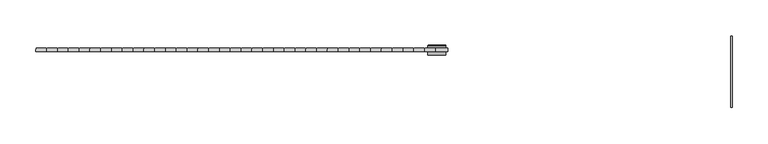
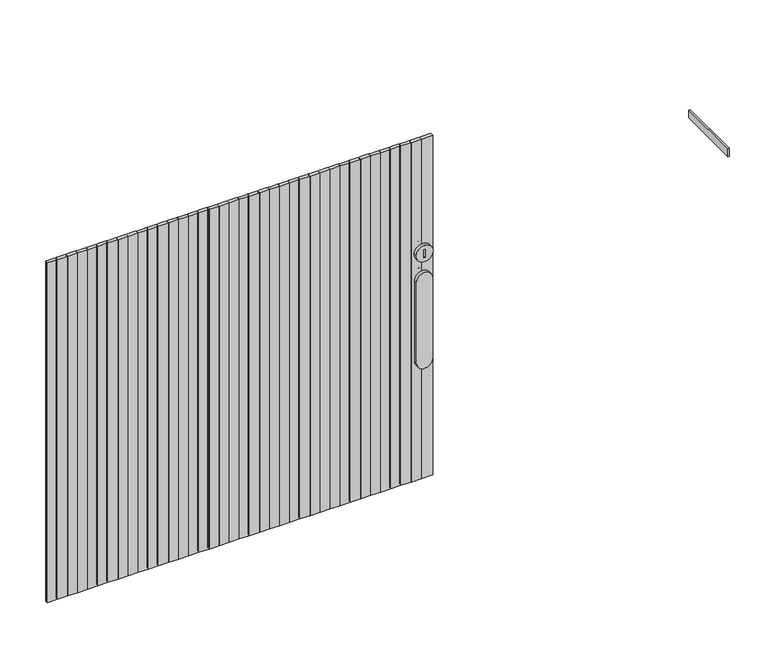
"""IFC4 building model written with IfcOpenShell, lengths in millimetres: furniture geometry, LH mobile caddy w.unpholstered seat+ sliding : LH mobile caddy w.unpholstered seat+ sliding."""

from ifc_helpers import new_model, si_unit, point, frame, frame_2d, origin, place, context, project, spatial, polyline, circle_curve, ellipse_curve, trimmed, segment, composite_curve, outline, extrude, source, transform, mapped, element, save
from ifc_brep_helpers import plane_surface, cylinder_surface, revolved_surface, advanced_brep


def furniture_b2eec27c(model_context):
    return source(origin(), model_context, "Body", "SolidModel", [
        advanced_brep(
        [(73.4473365, 237.0, 419.8528017), (96.5526635, 237.0, 419.8528017), (86.0273848, 237.0, 425.9208037), (84.0273848, 237.0, 425.9208037), (84.0273848, 237.0, 413.9208037), (86.0273848, 237.0, 413.9208037), (72.4473365, 223.0, 419.8528017), (97.5526635, 223.0, 419.8528017), (86.0273848, 223.0, 425.9208037), (86.0273848, 223.0, 413.9208037), (84.0273848, 223.0, 413.9208037), (84.0273848, 223.0, 425.9208037), (72.4473365, 236.0, 419.8528017), (97.5526635, 236.0, 419.8528017)],
        [
            (0, 1, circle_curve(frame((85.0, 237.0, 419.8528017), z_axis=(0.0, 1.0, 0.0), x_axis=(-1.0, 0.0, 0.0)), 11.5526635)),
            (1, 0, circle_curve(frame((85.0, 237.0, 419.8528017), z_axis=(0.0, 1.0, 0.0), x_axis=(1.0, 0.0, 0.0)), 11.5526635)),
            (2, 3),
            (3, 4),
            (4, 5),
            (5, 2),
            (6, 7, circle_curve(frame((85.0, 223.0, 419.8528017), z_axis=(0.0, -1.0, 0.0), x_axis=(1.0, 0.0, 0.0)), 12.5526635)),
            (7, 6, circle_curve(frame((85.0, 223.0, 419.8528017), z_axis=(0.0, -1.0, 0.0), x_axis=(1.0, 0.0, 0.0)), 12.5526635)),
            (8, 9),
            (9, 10),
            (10, 11),
            (11, 8),
            (6, 12),
            (12, 13, circle_curve(frame((85.0, 236.0, 419.8528017), z_axis=(0.0, -1.0, 0.0), x_axis=(1.0, 0.0, 0.0)), 12.5526635)),
            (13, 7),
            (13, 12, circle_curve(frame((85.0, 236.0, 419.8528017), z_axis=(0.0, -1.0, 0.0), x_axis=(1.0, 0.0, 0.0)), 12.5526635)),
            (5, 9),
            (8, 2),
            (4, 10),
            (3, 11),
            (1, 13, circle_curve(frame((96.5526635, 236.0, 419.8528017), z_axis=(0.0, 0.0, -1.0), x_axis=(1.0, 0.0, 0.0)), 1.0)),
            (12, 0, circle_curve(frame((73.4473365, 236.0, 419.8528017), z_axis=(0.0, 0.0, -1.0), x_axis=(-1.0, 0.0, 0.0)), 1.0)),
        ],
        [
            plane_surface(frame((97.5526635, 237.0, 419.8528017), z_axis=(0.0, 1.0, 0.0), x_axis=(0.0, 0.0, 1.0))),
            plane_surface(frame((97.5526635, 223.0, 419.8528017), z_axis=(0.0, -1.0, 0.0), x_axis=(0.0, 0.0, -1.0))),
            cylinder_surface(frame((85.0, 223.0, 419.8528017), z_axis=(0.0, 1.0, 0.0), x_axis=(1.0, 0.0, 0.0)), 12.5526635),
            plane_surface(frame((86.0273848, 237.0, 425.9208037), z_axis=(-1.0, 0.0, 0.0), x_axis=(0.0, -1.0, 0.0))),
            plane_surface(frame((86.0273848, 237.0, 413.9208037), z_axis=(0.0, 0.0, 1.0), x_axis=(0.0, -1.0, 0.0))),
            plane_surface(frame((84.0273848, 237.0, 413.9208037), z_axis=(1.0, 0.0, 0.0), x_axis=(0.0, -1.0, 0.0))),
            plane_surface(frame((84.0273848, 237.0, 425.9208037), z_axis=(0.0, 0.0, -1.0), x_axis=(0.0, -1.0, 0.0))),
            revolved_surface(trimmed(ellipse_curve(frame((96.5526635, 236.0, 419.8528017), z_axis=(0.0, 0.0, -1.0), x_axis=(1.0, 0.0, 0.0)), 1.0, 1.0), [point((96.5526635, 237.0, 419.8528017))], [point((97.5526635, 236.0, 419.8528017))], True, "CARTESIAN"), (85.0, 237.0, 419.8528017), (0.0, -1.0, 0.0)),
            revolved_surface(trimmed(ellipse_curve(frame((73.4473365, 236.0, 419.8528017), z_axis=(0.0, 0.0, 1.0), x_axis=(-1.0, 0.0, 0.0)), 1.0, 1.0), [point((73.4473365, 237.0, 419.8528017))], [point((72.4473365, 236.0, 419.8528017))], True, "CARTESIAN"), (85.0, 237.0, 419.8528017), (0.0, -1.0, 0.0)),
        ],
        [
            (0, [[1, 2], [3, 4, 5, 6]]),
            (1, [[7, 8], [9, 10, 11, 12]]),
            (2, [[13, 14, 15, -7]]),
            (2, [[-15, 16, -13, -8]]),
            (3, [[17, -9, 18, -6]]),
            (4, [[19, -10, -17, -5]]),
            (5, [[20, -11, -19, -4]]),
            (6, [[-18, -12, -20, -3]]),
            (7, [[-2, 21, -14, 22]]),
            (8, [[-16, -21, -1, -22]]),
        ],
    ),
        advanced_brep(
        [(96.0273848, 237.0, 251.804438), (74.0273848, 237.0, 251.804438), (74.0273848, 237.0, 377.9549918), (96.0273848, 237.0, 377.9549918), (76.0273848, 237.0, 251.9484186), (94.0273848, 237.0, 251.9484186), (94.0273848, 237.0, 377.9437952), (76.0273848, 237.0, 377.9437952), (73.0273848, 236.0, 251.804438), (97.0273848, 236.0, 251.804438), (97.0273848, 234.0, 251.804438), (73.0273848, 234.0, 251.804438), (97.0273848, 236.0, 377.9549918), (97.0273848, 234.0, 377.9549918), (97.0273848, 223.0, 377.9549918), (97.0273848, 223.0, 251.804438), (73.0273848, 236.0, 377.9549918), (73.0273848, 234.0, 377.9549918), (73.0273848, 223.0, 251.804438), (73.0273848, 223.0, 377.9549918), (77.0273848, 236.0, 377.9437952), (93.0273848, 236.0, 377.9437952), (93.0273848, 234.0, 377.9437952), (77.0273848, 234.0, 377.9437952), (93.0273848, 236.0, 251.9484186), (93.0273848, 234.0, 251.9484186), (77.0273848, 236.0, 251.9484186), (77.0273848, 234.0, 251.9484186)],
        [
            (0, 1, circle_curve(frame((85.0273848, 237.0, 251.804438), z_axis=(0.0, 1.0, 0.0), x_axis=(1.0, 0.0, 0.0)), 11.0)),
            (1, 2),
            (2, 3, circle_curve(frame((85.0273848, 237.0, 377.9549918), z_axis=(0.0, 1.0, 0.0), x_axis=(-1.0, 0.0, 0.0)), 11.0)),
            (3, 0),
            (4, 5, circle_curve(frame((85.0273848, 237.0, 251.9484186), z_axis=(0.0, -1.0, 0.0), x_axis=(-1.0, 0.0, 0.0)), 9.0)),
            (5, 6),
            (6, 7, circle_curve(frame((85.0273848, 237.0, 377.9437952), z_axis=(0.0, -1.0, 0.0), x_axis=(1.0, 0.0, 0.0)), 9.0)),
            (7, 4),
            (8, 9, circle_curve(frame((85.0273848, 236.0, 251.804438), z_axis=(0.0, -1.0, 0.0), x_axis=(1.0, 0.0, 0.0)), 12.0)),
            (9, 10),
            (10, 11, circle_curve(frame((85.0273848, 234.0, 251.804438), z_axis=(0.0, 1.0, 0.0), x_axis=(1.0, 0.0, 0.0)), 12.0)),
            (11, 8),
            (9, 12),
            (12, 13),
            (13, 14),
            (14, 15),
            (15, 10),
            (12, 16, circle_curve(frame((85.0273848, 236.0, 377.9549918), z_axis=(0.0, -1.0, 0.0), x_axis=(1.0, 0.0, 0.0)), 12.0)),
            (16, 17),
            (17, 13, circle_curve(frame((85.0273848, 234.0, 377.9549918), z_axis=(0.0, 1.0, 0.0), x_axis=(1.0, 0.0, 0.0)), 12.0)),
            (11, 18),
            (18, 19),
            (19, 17),
            (16, 8),
            (20, 21, circle_curve(frame((85.0273848, 236.0, 377.9437952), z_axis=(0.0, 1.0, 0.0), x_axis=(1.0, 0.0, 0.0)), 8.0)),
            (21, 22),
            (22, 23, circle_curve(frame((85.0273848, 234.0, 377.9437952), z_axis=(0.0, -1.0, 0.0), x_axis=(1.0, 0.0, 0.0)), 8.0)),
            (23, 20),
            (21, 24),
            (24, 25),
            (25, 22),
            (24, 26, circle_curve(frame((85.0273848, 236.0, 251.9484186), z_axis=(0.0, 1.0, 0.0), x_axis=(1.0, 0.0, 0.0)), 8.0)),
            (26, 27),
            (27, 25, circle_curve(frame((85.0273848, 234.0, 251.9484186), z_axis=(0.0, -1.0, 0.0), x_axis=(1.0, 0.0, 0.0)), 8.0)),
            (23, 27),
            (26, 20),
            (7, 20, circle_curve(frame((76.0273848, 236.0, 377.9437952), z_axis=(0.0, 0.0, -1.0), x_axis=(-1.0, 0.0, 0.0)), 1.0)),
            (26, 4, circle_curve(frame((76.0273848, 236.0, 251.9484186), z_axis=(0.0, 0.0, 1.0), x_axis=(-1.0, 0.0, 0.0)), 1.0)),
            (24, 5, circle_curve(frame((94.0273848, 236.0, 251.9484186), z_axis=(0.0, 0.0, -1.0), x_axis=(1.0, 0.0, 0.0)), 1.0)),
            (21, 6, circle_curve(frame((94.0273848, 236.0, 377.9437952), z_axis=(0.0, 0.0, -1.0), x_axis=(1.0, 0.0, 0.0)), 1.0)),
            (3, 12, circle_curve(frame((96.0273848, 236.0, 377.9549918), z_axis=(0.0, 0.0, -1.0), x_axis=(1.0, 0.0, 0.0)), 1.0)),
            (9, 0, circle_curve(frame((96.0273848, 236.0, 251.804438), z_axis=(0.0, 0.0, 1.0), x_axis=(1.0, 0.0, 0.0)), 1.0)),
            (8, 1, circle_curve(frame((74.0273848, 236.0, 251.804438), z_axis=(0.0, 0.0, -1.0), x_axis=(-1.0, 0.0, 0.0)), 1.0)),
            (16, 2, circle_curve(frame((74.0273848, 236.0, 377.9549918), z_axis=(0.0, 0.0, -1.0), x_axis=(-1.0, 0.0, 0.0)), 1.0)),
            (18, 15, circle_curve(frame((85.0273848, 223.0, 251.804438), z_axis=(0.0, -1.0, 0.0), x_axis=(1.0, 0.0, 0.0)), 12.0)),
            (14, 19, circle_curve(frame((85.0273848, 223.0, 377.9549918), z_axis=(0.0, -1.0, 0.0), x_axis=(1.0, 0.0, 0.0)), 12.0)),
        ],
        [
            plane_surface(frame((97.0273848, 237.0, 251.804438), z_axis=(0.0, 1.0, 0.0), x_axis=(0.0, 0.0, 1.0))),
            cylinder_surface(frame((85.0273848, 234.0, 251.804438), z_axis=(0.0, 1.0, 0.0), x_axis=(1.0, 0.0, 0.0)), 12.0),
            plane_surface(frame((97.0273848, 237.0, 251.804438), z_axis=(1.0, 0.0, 0.0), x_axis=(0.0, -1.0, 0.0))),
            cylinder_surface(frame((85.0273848, 234.0, 377.9549918), z_axis=(0.0, 1.0, 0.0), x_axis=(1.0, 0.0, 0.0)), 12.0),
            plane_surface(frame((73.0273848, 237.0, 377.9549918), z_axis=(-1.0, 0.0, 0.0), x_axis=(0.0, -1.0, 0.0))),
            revolved_surface(polyline([(93.0273848, 234.0, 377.9437952), (93.0273848, 236.0, 377.9437952)]), (85.0273848, 237.0, 377.9437952), (0.0, -1.0, 0.0)),
            plane_surface(frame((93.0273848, 237.0, 377.9437952), z_axis=(-1.0, 0.0, 0.0), x_axis=(0.0, -1.0, 0.0))),
            revolved_surface(polyline([(93.0273848, 234.0, 251.9484186), (93.0273848, 236.0, 251.9484186)]), (85.0273848, 237.0, 251.9484186), (0.0, -1.0, 0.0)),
            plane_surface(frame((77.0273848, 237.0, 251.9484186), z_axis=(1.0, 0.0, 0.0), x_axis=(0.0, -1.0, 0.0))),
            cylinder_surface(frame((76.0273848, 236.0, 377.9437952), z_axis=(0.0, 0.0, -1.0), x_axis=(-1.0, 0.0, 0.0)), 1.0),
            revolved_surface(trimmed(ellipse_curve(frame((76.0273848, 236.0, 251.9484186), z_axis=(0.0, 0.0, -1.0), x_axis=(-1.0, 0.0, 0.0)), 1.0, 1.0), [point((76.0273848, 237.0, 251.9484186))], [point((77.0273848, 236.0, 251.9484186))], True, "CARTESIAN"), (85.0273848, 237.0, 251.9484186), (0.0, 1.0, 0.0)),
            cylinder_surface(frame((94.0273848, 236.0, 251.9484186), z_axis=(0.0, 0.0, 1.0), x_axis=(1.0, 0.0, 0.0)), 1.0),
            revolved_surface(trimmed(ellipse_curve(frame((94.0273848, 236.0, 377.9437952), z_axis=(0.0, 0.0, 1.0), x_axis=(1.0, 0.0, 0.0)), 1.0, 1.0), [point((94.0273848, 237.0, 377.9437952))], [point((93.0273848, 236.0, 377.9437952))], True, "CARTESIAN"), (85.0273848, 237.0, 377.9437952), (0.0, 1.0, 0.0)),
            cylinder_surface(frame((96.0273848, 236.0, 377.9549918), z_axis=(0.0, 0.0, -1.0), x_axis=(1.0, 0.0, 0.0)), 1.0),
            revolved_surface(trimmed(ellipse_curve(frame((96.0273848, 236.0, 251.804438), z_axis=(0.0, 0.0, -1.0), x_axis=(1.0, 0.0, 0.0)), 1.0, 1.0), [point((96.0273848, 237.0, 251.804438))], [point((97.0273848, 236.0, 251.804438))], True, "CARTESIAN"), (85.0273848, 237.0, 251.804438), (0.0, -1.0, 0.0)),
            cylinder_surface(frame((74.0273848, 236.0, 251.804438), z_axis=(0.0, 0.0, 1.0), x_axis=(-1.0, 0.0, 0.0)), 1.0),
            revolved_surface(trimmed(ellipse_curve(frame((74.0273848, 236.0, 377.9549918), z_axis=(0.0, 0.0, 1.0), x_axis=(-1.0, 0.0, 0.0)), 1.0, 1.0), [point((74.0273848, 237.0, 377.9549918))], [point((73.0273848, 236.0, 377.9549918))], True, "CARTESIAN"), (85.0273848, 237.0, 377.9549918), (0.0, -1.0, 0.0)),
            plane_surface(frame((97.0273848, 234.0, 251.804438), z_axis=(0.0, 1.0, 0.0), x_axis=(0.0, 0.0, 1.0))),
            plane_surface(frame((97.0273848, 223.0, 251.804438), z_axis=(0.0, -1.0, 0.0), x_axis=(0.0, 0.0, -1.0))),
            cylinder_surface(frame((85.0273848, 223.0, 251.804438), z_axis=(0.0, 1.0, 0.0), x_axis=(1.0, 0.0, 0.0)), 12.0),
            cylinder_surface(frame((85.0273848, 223.0, 377.9549918), z_axis=(0.0, 1.0, 0.0), x_axis=(1.0, 0.0, 0.0)), 12.0),
        ],
        [
            (0, [[1, 2, 3, 4], [5, 6, 7, 8]]),
            (1, [[9, 10, 11, 12]]),
            (2, [[13, 14, 15, 16, 17, -10]]),
            (3, [[18, 19, 20, -14]]),
            (4, [[21, 22, 23, -19, 24, -12]]),
            (5, [[25, 26, 27, 28]]),
            (6, [[29, 30, 31, -26]]),
            (7, [[32, 33, 34, -30]]),
            (8, [[35, -33, 36, -28]]),
            (9, [[-8, 37, -36, 38]]),
            (10, [[-32, 39, -5, -38]]),
            (11, [[-29, 40, -6, -39]]),
            (12, [[-7, -40, -25, -37]]),
            (13, [[-4, 41, -13, 42]]),
            (14, [[-9, 43, -1, -42]]),
            (15, [[-24, 44, -2, -43]]),
            (16, [[-3, -44, -18, -41]]),
            (17, [[-31, -34, -35, -27]]),
            (18, [[45, -16, 46, -22]]),
            (19, [[-21, -11, -17, -45]]),
            (20, [[-15, -20, -23, -46]]),
        ],
    ),
        extrude(outline(composite_curve([segment(polyline([(82.9948684, 228.2249016), (67.9948684, 228.2249016), (67.9948684, 231.2249016)]), True, "CONTINUOUS"), segment(trimmed(circle_curve(frame_2d((69.9948684, 231.2249016)), 2.0), [point((67.9948684, 231.2249016))], [point((69.9948684, 233.2249016))], False, "CARTESIAN"), True, "CONTINUOUS"), segment(polyline([(69.9948684, 233.2249016), (80.9948684, 233.2249016)]), True, "CONTINUOUS"), segment(trimmed(circle_curve(frame_2d((80.9948684, 231.2249016)), 2.0), [point((80.9948684, 233.2249016))], [point((82.9948684, 231.2249016))], False, "CARTESIAN"), True, "CONTINUOUS"), segment(polyline([(82.9948684, 231.2249016), (82.9948684, 228.2249016)]), True, "CONTINUOUS")], self_intersect=False)), frame((0.0, 0.0, 63.9114638), z_axis=(0.0, 0.0, 1.0), x_axis=(1.0, 0.0, 0.0)), (0.0, 0.0, 1.0), 533.0),
        extrude(outline(composite_curve([segment(polyline([(67.9948684, 228.2249016), (52.9948684, 228.2249016), (52.9948684, 231.2249016)]), True, "CONTINUOUS"), segment(trimmed(circle_curve(frame_2d((54.9948684, 231.2249016)), 2.0), [point((52.9948684, 231.2249016))], [point((54.9948684, 233.2249016))], False, "CARTESIAN"), True, "CONTINUOUS"), segment(polyline([(54.9948684, 233.2249016), (65.9948684, 233.2249016)]), True, "CONTINUOUS"), segment(trimmed(circle_curve(frame_2d((65.9948684, 231.2249016)), 2.0), [point((65.9948684, 233.2249016))], [point((67.9948684, 231.2249016))], False, "CARTESIAN"), True, "CONTINUOUS"), segment(polyline([(67.9948684, 231.2249016), (67.9948684, 228.2249016)]), True, "CONTINUOUS")], self_intersect=False)), frame((0.0, 0.0, 63.9114638), z_axis=(0.0, 0.0, 1.0), x_axis=(1.0, 0.0, 0.0)), (0.0, 0.0, 1.0), 533.0),
        extrude(outline(composite_curve([segment(polyline([(52.9948684, 228.2249016), (37.9948684, 228.2249016), (37.9948684, 231.2249016)]), True, "CONTINUOUS"), segment(trimmed(circle_curve(frame_2d((39.9948684, 231.2249016)), 2.0), [point((37.9948684, 231.2249016))], [point((39.9948684, 233.2249016))], False, "CARTESIAN"), True, "CONTINUOUS"), segment(polyline([(39.9948684, 233.2249016), (50.9948684, 233.2249016)]), True, "CONTINUOUS"), segment(trimmed(circle_curve(frame_2d((50.9948684, 231.2249016)), 2.0), [point((50.9948684, 233.2249016))], [point((52.9948684, 231.2249016))], False, "CARTESIAN"), True, "CONTINUOUS"), segment(polyline([(52.9948684, 231.2249016), (52.9948684, 228.2249016)]), True, "CONTINUOUS")], self_intersect=False)), frame((0.0, 0.0, 63.9114638), z_axis=(0.0, 0.0, 1.0), x_axis=(1.0, 0.0, 0.0)), (0.0, 0.0, 1.0), 533.0),
        extrude(outline(composite_curve([segment(polyline([(37.9948684, 228.2249016), (22.9948684, 228.2249016), (22.9948684, 231.2249016)]), True, "CONTINUOUS"), segment(trimmed(circle_curve(frame_2d((24.9948684, 231.2249016)), 2.0), [point((22.9948684, 231.2249016))], [point((24.9948684, 233.2249016))], False, "CARTESIAN"), True, "CONTINUOUS"), segment(polyline([(24.9948684, 233.2249016), (35.9948684, 233.2249016)]), True, "CONTINUOUS"), segment(trimmed(circle_curve(frame_2d((35.9948684, 231.2249016)), 2.0), [point((35.9948684, 233.2249016))], [point((37.9948684, 231.2249016))], False, "CARTESIAN"), True, "CONTINUOUS"), segment(polyline([(37.9948684, 231.2249016), (37.9948684, 228.2249016)]), True, "CONTINUOUS")], self_intersect=False)), frame((0.0, 0.0, 63.9114638), z_axis=(0.0, 0.0, 1.0), x_axis=(1.0, 0.0, 0.0)), (0.0, 0.0, 1.0), 533.0),
        extrude(outline(composite_curve([segment(polyline([(22.9948684, 228.2249016), (7.9948684, 228.2249016), (7.9948684, 231.2249016)]), True, "CONTINUOUS"), segment(trimmed(circle_curve(frame_2d((9.9948684, 231.2249016)), 2.0), [point((7.9948684, 231.2249016))], [point((9.9948684, 233.2249016))], False, "CARTESIAN"), True, "CONTINUOUS"), segment(polyline([(9.9948684, 233.2249016), (20.9948684, 233.2249016)]), True, "CONTINUOUS"), segment(trimmed(circle_curve(frame_2d((20.9948684, 231.2249016)), 2.0), [point((20.9948684, 233.2249016))], [point((22.9948684, 231.2249016))], False, "CARTESIAN"), True, "CONTINUOUS"), segment(polyline([(22.9948684, 231.2249016), (22.9948684, 228.2249016)]), True, "CONTINUOUS")], self_intersect=False)), frame((0.0, 0.0, 63.9114638), z_axis=(0.0, 0.0, 1.0), x_axis=(1.0, 0.0, 0.0)), (0.0, 0.0, 1.0), 533.0),
        extrude(outline(composite_curve([segment(polyline([(7.9948684, 228.2249016), (-7.0051316, 228.2249016), (-7.0051316, 231.2249016)]), True, "CONTINUOUS"), segment(trimmed(circle_curve(frame_2d((-5.0051316, 231.2249016)), 2.0), [point((-7.0051316, 231.2249016))], [point((-5.0051316, 233.2249016))], False, "CARTESIAN"), True, "CONTINUOUS"), segment(polyline([(-5.0051316, 233.2249016), (5.9948684, 233.2249016)]), True, "CONTINUOUS"), segment(trimmed(circle_curve(frame_2d((5.9948684, 231.2249016)), 2.0), [point((5.9948684, 233.2249016))], [point((7.9948684, 231.2249016))], False, "CARTESIAN"), True, "CONTINUOUS"), segment(polyline([(7.9948684, 231.2249016), (7.9948684, 228.2249016)]), True, "CONTINUOUS")], self_intersect=False)), frame((0.0, 0.0, 63.9114638), z_axis=(0.0, 0.0, 1.0), x_axis=(1.0, 0.0, 0.0)), (0.0, 0.0, 1.0), 533.0),
        extrude(outline(composite_curve([segment(polyline([(-7.0051316, 228.2249016), (-22.0051316, 228.2249016), (-22.0051316, 231.2249016)]), True, "CONTINUOUS"), segment(trimmed(circle_curve(frame_2d((-20.0051316, 231.2249016)), 2.0), [point((-22.0051316, 231.2249016))], [point((-20.0051316, 233.2249016))], False, "CARTESIAN"), True, "CONTINUOUS"), segment(polyline([(-20.0051316, 233.2249016), (-9.0051316, 233.2249016)]), True, "CONTINUOUS"), segment(trimmed(circle_curve(frame_2d((-9.0051316, 231.2249016)), 2.0), [point((-9.0051316, 233.2249016))], [point((-7.0051316, 231.2249016))], False, "CARTESIAN"), True, "CONTINUOUS"), segment(polyline([(-7.0051316, 231.2249016), (-7.0051316, 228.2249016)]), True, "CONTINUOUS")], self_intersect=False)), frame((0.0, 0.0, 63.9114638), z_axis=(0.0, 0.0, 1.0), x_axis=(1.0, 0.0, 0.0)), (0.0, 0.0, 1.0), 533.0),
        extrude(outline(composite_curve([segment(polyline([(-22.0051316, 228.2249016), (-37.0051316, 228.2249016), (-37.0051316, 231.2249016)]), True, "CONTINUOUS"), segment(trimmed(circle_curve(frame_2d((-35.0051316, 231.2249016)), 2.0), [point((-37.0051316, 231.2249016))], [point((-35.0051316, 233.2249016))], False, "CARTESIAN"), True, "CONTINUOUS"), segment(polyline([(-35.0051316, 233.2249016), (-24.0051316, 233.2249016)]), True, "CONTINUOUS"), segment(trimmed(circle_curve(frame_2d((-24.0051316, 231.2249016)), 2.0), [point((-24.0051316, 233.2249016))], [point((-22.0051316, 231.2249016))], False, "CARTESIAN"), True, "CONTINUOUS"), segment(polyline([(-22.0051316, 231.2249016), (-22.0051316, 228.2249016)]), True, "CONTINUOUS")], self_intersect=False)), frame((0.0, 0.0, 63.9114638), z_axis=(0.0, 0.0, 1.0), x_axis=(1.0, 0.0, 0.0)), (0.0, 0.0, 1.0), 533.0),
        extrude(outline(composite_curve([segment(polyline([(-37.0051316, 228.2249016), (-52.0051316, 228.2249016), (-52.0051316, 231.2249016)]), True, "CONTINUOUS"), segment(trimmed(circle_curve(frame_2d((-50.0051316, 231.2249016)), 2.0), [point((-52.0051316, 231.2249016))], [point((-50.0051316, 233.2249016))], False, "CARTESIAN"), True, "CONTINUOUS"), segment(polyline([(-50.0051316, 233.2249016), (-39.0051316, 233.2249016)]), True, "CONTINUOUS"), segment(trimmed(circle_curve(frame_2d((-39.0051316, 231.2249016)), 2.0), [point((-39.0051316, 233.2249016))], [point((-37.0051316, 231.2249016))], False, "CARTESIAN"), True, "CONTINUOUS"), segment(polyline([(-37.0051316, 231.2249016), (-37.0051316, 228.2249016)]), True, "CONTINUOUS")], self_intersect=False)), frame((0.0, 0.0, 63.9114638), z_axis=(0.0, 0.0, 1.0), x_axis=(1.0, 0.0, 0.0)), (0.0, 0.0, 1.0), 533.0),
        extrude(outline(composite_curve([segment(polyline([(-52.0051316, 228.2249016), (-67.0051316, 228.2249016), (-67.0051316, 231.2249016)]), True, "CONTINUOUS"), segment(trimmed(circle_curve(frame_2d((-65.0051316, 231.2249016)), 2.0), [point((-67.0051316, 231.2249016))], [point((-65.0051316, 233.2249016))], False, "CARTESIAN"), True, "CONTINUOUS"), segment(polyline([(-65.0051316, 233.2249016), (-54.0051316, 233.2249016)]), True, "CONTINUOUS"), segment(trimmed(circle_curve(frame_2d((-54.0051316, 231.2249016)), 2.0), [point((-54.0051316, 233.2249016))], [point((-52.0051316, 231.2249016))], False, "CARTESIAN"), True, "CONTINUOUS"), segment(polyline([(-52.0051316, 231.2249016), (-52.0051316, 228.2249016)]), True, "CONTINUOUS")], self_intersect=False)), frame((0.0, 0.0, 63.9114638), z_axis=(0.0, 0.0, 1.0), x_axis=(1.0, 0.0, 0.0)), (0.0, 0.0, 1.0), 533.0),
        extrude(outline(composite_curve([segment(polyline([(-67.0051316, 228.2249016), (-82.0051316, 228.2249016), (-82.0051316, 231.2249016)]), True, "CONTINUOUS"), segment(trimmed(circle_curve(frame_2d((-80.0051316, 231.2249016)), 2.0), [point((-82.0051316, 231.2249016))], [point((-80.0051316, 233.2249016))], False, "CARTESIAN"), True, "CONTINUOUS"), segment(polyline([(-80.0051316, 233.2249016), (-69.0051316, 233.2249016)]), True, "CONTINUOUS"), segment(trimmed(circle_curve(frame_2d((-69.0051316, 231.2249016)), 2.0), [point((-69.0051316, 233.2249016))], [point((-67.0051316, 231.2249016))], False, "CARTESIAN"), True, "CONTINUOUS"), segment(polyline([(-67.0051316, 231.2249016), (-67.0051316, 228.2249016)]), True, "CONTINUOUS")], self_intersect=False)), frame((0.0, 0.0, 63.9114638), z_axis=(0.0, 0.0, 1.0), x_axis=(1.0, 0.0, 0.0)), (0.0, 0.0, 1.0), 533.0),
        extrude(outline(composite_curve([segment(polyline([(-82.0051316, 228.2249016), (-97.0051316, 228.2249016), (-97.0051316, 231.2249016)]), True, "CONTINUOUS"), segment(trimmed(circle_curve(frame_2d((-95.0051316, 231.2249016)), 2.0), [point((-97.0051316, 231.2249016))], [point((-95.0051316, 233.2249016))], False, "CARTESIAN"), True, "CONTINUOUS"), segment(polyline([(-95.0051316, 233.2249016), (-84.0051316, 233.2249016)]), True, "CONTINUOUS"), segment(trimmed(circle_curve(frame_2d((-84.0051316, 231.2249016)), 2.0), [point((-84.0051316, 233.2249016))], [point((-82.0051316, 231.2249016))], False, "CARTESIAN"), True, "CONTINUOUS"), segment(polyline([(-82.0051316, 231.2249016), (-82.0051316, 228.2249016)]), True, "CONTINUOUS")], self_intersect=False)), frame((0.0, 0.0, 63.9114638), z_axis=(0.0, 0.0, 1.0), x_axis=(1.0, 0.0, 0.0)), (0.0, 0.0, 1.0), 533.0),
        extrude(outline(composite_curve([segment(polyline([(-97.0051316, 228.2249016), (-112.0051316, 228.2249016), (-112.0051316, 231.2249016)]), True, "CONTINUOUS"), segment(trimmed(circle_curve(frame_2d((-110.0051316, 231.2249016)), 2.0), [point((-112.0051316, 231.2249016))], [point((-110.0051316, 233.2249016))], False, "CARTESIAN"), True, "CONTINUOUS"), segment(polyline([(-110.0051316, 233.2249016), (-99.0051316, 233.2249016)]), True, "CONTINUOUS"), segment(trimmed(circle_curve(frame_2d((-99.0051316, 231.2249016)), 2.0), [point((-99.0051316, 233.2249016))], [point((-97.0051316, 231.2249016))], False, "CARTESIAN"), True, "CONTINUOUS"), segment(polyline([(-97.0051316, 231.2249016), (-97.0051316, 228.2249016)]), True, "CONTINUOUS")], self_intersect=False)), frame((0.0, 0.0, 63.9114638), z_axis=(0.0, 0.0, 1.0), x_axis=(1.0, 0.0, 0.0)), (0.0, 0.0, 1.0), 533.0),
        extrude(outline(composite_curve([segment(polyline([(-112.0051316, 228.2249016), (-127.0051316, 228.2249016), (-127.0051316, 231.2249016)]), True, "CONTINUOUS"), segment(trimmed(circle_curve(frame_2d((-125.0051316, 231.2249016)), 2.0), [point((-127.0051316, 231.2249016))], [point((-125.0051316, 233.2249016))], False, "CARTESIAN"), True, "CONTINUOUS"), segment(polyline([(-125.0051316, 233.2249016), (-114.0051316, 233.2249016)]), True, "CONTINUOUS"), segment(trimmed(circle_curve(frame_2d((-114.0051316, 231.2249016)), 2.0), [point((-114.0051316, 233.2249016))], [point((-112.0051316, 231.2249016))], False, "CARTESIAN"), True, "CONTINUOUS"), segment(polyline([(-112.0051316, 231.2249016), (-112.0051316, 228.2249016)]), True, "CONTINUOUS")], self_intersect=False)), frame((0.0, 0.0, 63.9114638), z_axis=(0.0, 0.0, 1.0), x_axis=(1.0, 0.0, 0.0)), (0.0, 0.0, 1.0), 533.0),
        extrude(outline(composite_curve([segment(polyline([(-127.0051316, 228.2249016), (-142.0051316, 228.2249016), (-142.0051316, 231.2249016)]), True, "CONTINUOUS"), segment(trimmed(circle_curve(frame_2d((-140.0051316, 231.2249016)), 2.0), [point((-142.0051316, 231.2249016))], [point((-140.0051316, 233.2249016))], False, "CARTESIAN"), True, "CONTINUOUS"), segment(polyline([(-140.0051316, 233.2249016), (-129.0051316, 233.2249016)]), True, "CONTINUOUS"), segment(trimmed(circle_curve(frame_2d((-129.0051316, 231.2249016)), 2.0), [point((-129.0051316, 233.2249016))], [point((-127.0051316, 231.2249016))], False, "CARTESIAN"), True, "CONTINUOUS"), segment(polyline([(-127.0051316, 231.2249016), (-127.0051316, 228.2249016)]), True, "CONTINUOUS")], self_intersect=False)), frame((0.0, 0.0, 63.9114638), z_axis=(0.0, 0.0, 1.0), x_axis=(1.0, 0.0, 0.0)), (0.0, 0.0, 1.0), 533.0),
        extrude(outline(composite_curve([segment(polyline([(-142.0051316, 228.2249016), (-157.0051316, 228.2249016), (-157.0051316, 231.2249016)]), True, "CONTINUOUS"), segment(trimmed(circle_curve(frame_2d((-155.0051316, 231.2249016)), 2.0), [point((-157.0051316, 231.2249016))], [point((-155.0051316, 233.2249016))], False, "CARTESIAN"), True, "CONTINUOUS"), segment(polyline([(-155.0051316, 233.2249016), (-144.0051316, 233.2249016)]), True, "CONTINUOUS"), segment(trimmed(circle_curve(frame_2d((-144.0051316, 231.2249016)), 2.0), [point((-144.0051316, 233.2249016))], [point((-142.0051316, 231.2249016))], False, "CARTESIAN"), True, "CONTINUOUS"), segment(polyline([(-142.0051316, 231.2249016), (-142.0051316, 228.2249016)]), True, "CONTINUOUS")], self_intersect=False)), frame((0.0, 0.0, 63.9114638), z_axis=(0.0, 0.0, 1.0), x_axis=(1.0, 0.0, 0.0)), (0.0, 0.0, 1.0), 533.0),
        extrude(outline(composite_curve([segment(polyline([(-157.0051316, 228.2249016), (-172.0051316, 228.2249016), (-172.0051316, 231.2249016)]), True, "CONTINUOUS"), segment(trimmed(circle_curve(frame_2d((-170.0051316, 231.2249016)), 2.0), [point((-172.0051316, 231.2249016))], [point((-170.0051316, 233.2249016))], False, "CARTESIAN"), True, "CONTINUOUS"), segment(polyline([(-170.0051316, 233.2249016), (-159.0051316, 233.2249016)]), True, "CONTINUOUS"), segment(trimmed(circle_curve(frame_2d((-159.0051316, 231.2249016)), 2.0), [point((-159.0051316, 233.2249016))], [point((-157.0051316, 231.2249016))], False, "CARTESIAN"), True, "CONTINUOUS"), segment(polyline([(-157.0051316, 231.2249016), (-157.0051316, 228.2249016)]), True, "CONTINUOUS")], self_intersect=False)), frame((0.0, 0.0, 63.9114638), z_axis=(0.0, 0.0, 1.0), x_axis=(1.0, 0.0, 0.0)), (0.0, 0.0, 1.0), 533.0),
        extrude(outline(composite_curve([segment(polyline([(-172.0051316, 228.2249016), (-187.0051316, 228.2249016), (-187.0051316, 231.2249016)]), True, "CONTINUOUS"), segment(trimmed(circle_curve(frame_2d((-185.0051316, 231.2249016)), 2.0), [point((-187.0051316, 231.2249016))], [point((-185.0051316, 233.2249016))], False, "CARTESIAN"), True, "CONTINUOUS"), segment(polyline([(-185.0051316, 233.2249016), (-174.0051316, 233.2249016)]), True, "CONTINUOUS"), segment(trimmed(circle_curve(frame_2d((-174.0051316, 231.2249016)), 2.0), [point((-174.0051316, 233.2249016))], [point((-172.0051316, 231.2249016))], False, "CARTESIAN"), True, "CONTINUOUS"), segment(polyline([(-172.0051316, 231.2249016), (-172.0051316, 228.2249016)]), True, "CONTINUOUS")], self_intersect=False)), frame((0.0, 0.0, 63.9114638), z_axis=(0.0, 0.0, 1.0), x_axis=(1.0, 0.0, 0.0)), (0.0, 0.0, 1.0), 533.0),
        extrude(outline(composite_curve([segment(polyline([(-187.0051316, 228.2249016), (-202.0051316, 228.2249016), (-202.0051316, 231.2249016)]), True, "CONTINUOUS"), segment(trimmed(circle_curve(frame_2d((-200.0051316, 231.2249016)), 2.0), [point((-202.0051316, 231.2249016))], [point((-200.0051316, 233.2249016))], False, "CARTESIAN"), True, "CONTINUOUS"), segment(polyline([(-200.0051316, 233.2249016), (-189.0051316, 233.2249016)]), True, "CONTINUOUS"), segment(trimmed(circle_curve(frame_2d((-189.0051316, 231.2249016)), 2.0), [point((-189.0051316, 233.2249016))], [point((-187.0051316, 231.2249016))], False, "CARTESIAN"), True, "CONTINUOUS"), segment(polyline([(-187.0051316, 231.2249016), (-187.0051316, 228.2249016)]), True, "CONTINUOUS")], self_intersect=False)), frame((0.0, 0.0, 63.9114638), z_axis=(0.0, 0.0, 1.0), x_axis=(1.0, 0.0, 0.0)), (0.0, 0.0, 1.0), 533.0),
        extrude(outline(composite_curve([segment(polyline([(-202.0051316, 228.2249016), (-217.0051316, 228.2249016), (-217.0051316, 231.2249016)]), True, "CONTINUOUS"), segment(trimmed(circle_curve(frame_2d((-215.0051316, 231.2249016)), 2.0), [point((-217.0051316, 231.2249016))], [point((-215.0051316, 233.2249016))], False, "CARTESIAN"), True, "CONTINUOUS"), segment(polyline([(-215.0051316, 233.2249016), (-204.0051316, 233.2249016)]), True, "CONTINUOUS"), segment(trimmed(circle_curve(frame_2d((-204.0051316, 231.2249016)), 2.0), [point((-204.0051316, 233.2249016))], [point((-202.0051316, 231.2249016))], False, "CARTESIAN"), True, "CONTINUOUS"), segment(polyline([(-202.0051316, 231.2249016), (-202.0051316, 228.2249016)]), True, "CONTINUOUS")], self_intersect=False)), frame((0.0, 0.0, 63.9114638), z_axis=(0.0, 0.0, 1.0), x_axis=(1.0, 0.0, 0.0)), (0.0, 0.0, 1.0), 533.0),
        extrude(outline(composite_curve([segment(polyline([(-217.0051316, 228.2249016), (-232.0051316, 228.2249016), (-232.0051316, 231.2249016)]), True, "CONTINUOUS"), segment(trimmed(circle_curve(frame_2d((-230.0051316, 231.2249016)), 2.0), [point((-232.0051316, 231.2249016))], [point((-230.0051316, 233.2249016))], False, "CARTESIAN"), True, "CONTINUOUS"), segment(polyline([(-230.0051316, 233.2249016), (-219.0051316, 233.2249016)]), True, "CONTINUOUS"), segment(trimmed(circle_curve(frame_2d((-219.0051316, 231.2249016)), 2.0), [point((-219.0051316, 233.2249016))], [point((-217.0051316, 231.2249016))], False, "CARTESIAN"), True, "CONTINUOUS"), segment(polyline([(-217.0051316, 231.2249016), (-217.0051316, 228.2249016)]), True, "CONTINUOUS")], self_intersect=False)), frame((0.0, 0.0, 63.9114638), z_axis=(0.0, 0.0, 1.0), x_axis=(1.0, 0.0, 0.0)), (0.0, 0.0, 1.0), 533.0),
        extrude(outline(composite_curve([segment(polyline([(-232.0051316, 228.2249016), (-247.0051316, 228.2249016), (-247.0051316, 231.2249016)]), True, "CONTINUOUS"), segment(trimmed(circle_curve(frame_2d((-245.0051316, 231.2249016)), 2.0), [point((-247.0051316, 231.2249016))], [point((-245.0051316, 233.2249016))], False, "CARTESIAN"), True, "CONTINUOUS"), segment(polyline([(-245.0051316, 233.2249016), (-234.0051316, 233.2249016)]), True, "CONTINUOUS"), segment(trimmed(circle_curve(frame_2d((-234.0051316, 231.2249016)), 2.0), [point((-234.0051316, 233.2249016))], [point((-232.0051316, 231.2249016))], False, "CARTESIAN"), True, "CONTINUOUS"), segment(polyline([(-232.0051316, 231.2249016), (-232.0051316, 228.2249016)]), True, "CONTINUOUS")], self_intersect=False)), frame((0.0, 0.0, 63.9114638), z_axis=(0.0, 0.0, 1.0), x_axis=(1.0, 0.0, 0.0)), (0.0, 0.0, 1.0), 533.0),
        extrude(outline(composite_curve([segment(polyline([(-247.0051316, 228.2249016), (-262.0051316, 228.2249016), (-262.0051316, 231.2249016)]), True, "CONTINUOUS"), segment(trimmed(circle_curve(frame_2d((-260.0051316, 231.2249016)), 2.0), [point((-262.0051316, 231.2249016))], [point((-260.0051316, 233.2249016))], False, "CARTESIAN"), True, "CONTINUOUS"), segment(polyline([(-260.0051316, 233.2249016), (-249.0051316, 233.2249016)]), True, "CONTINUOUS"), segment(trimmed(circle_curve(frame_2d((-249.0051316, 231.2249016)), 2.0), [point((-249.0051316, 233.2249016))], [point((-247.0051316, 231.2249016))], False, "CARTESIAN"), True, "CONTINUOUS"), segment(polyline([(-247.0051316, 231.2249016), (-247.0051316, 228.2249016)]), True, "CONTINUOUS")], self_intersect=False)), frame((0.0, 0.0, 63.9114638), z_axis=(0.0, 0.0, 1.0), x_axis=(1.0, 0.0, 0.0)), (0.0, 0.0, 1.0), 533.0),
        extrude(outline(composite_curve([segment(polyline([(-262.0051316, 228.2249016), (-277.0051316, 228.2249016), (-277.0051316, 231.2249016)]), True, "CONTINUOUS"), segment(trimmed(circle_curve(frame_2d((-275.0051316, 231.2249016)), 2.0), [point((-277.0051316, 231.2249016))], [point((-275.0051316, 233.2249016))], False, "CARTESIAN"), True, "CONTINUOUS"), segment(polyline([(-275.0051316, 233.2249016), (-264.0051316, 233.2249016)]), True, "CONTINUOUS"), segment(trimmed(circle_curve(frame_2d((-264.0051316, 231.2249016)), 2.0), [point((-264.0051316, 233.2249016))], [point((-262.0051316, 231.2249016))], False, "CARTESIAN"), True, "CONTINUOUS"), segment(polyline([(-262.0051316, 231.2249016), (-262.0051316, 228.2249016)]), True, "CONTINUOUS")], self_intersect=False)), frame((0.0, 0.0, 63.9114638), z_axis=(0.0, 0.0, 1.0), x_axis=(1.0, 0.0, 0.0)), (0.0, 0.0, 1.0), 533.0),
        extrude(outline(composite_curve([segment(polyline([(-277.0051316, 228.2249016), (-292.0051316, 228.2249016), (-292.0051316, 231.2249016)]), True, "CONTINUOUS"), segment(trimmed(circle_curve(frame_2d((-290.0051316, 231.2249016)), 2.0), [point((-292.0051316, 231.2249016))], [point((-290.0051316, 233.2249016))], False, "CARTESIAN"), True, "CONTINUOUS"), segment(polyline([(-290.0051316, 233.2249016), (-279.0051316, 233.2249016)]), True, "CONTINUOUS"), segment(trimmed(circle_curve(frame_2d((-279.0051316, 231.2249016)), 2.0), [point((-279.0051316, 233.2249016))], [point((-277.0051316, 231.2249016))], False, "CARTESIAN"), True, "CONTINUOUS"), segment(polyline([(-277.0051316, 231.2249016), (-277.0051316, 228.2249016)]), True, "CONTINUOUS")], self_intersect=False)), frame((0.0, 0.0, 63.9114638), z_axis=(0.0, 0.0, 1.0), x_axis=(1.0, 0.0, 0.0)), (0.0, 0.0, 1.0), 533.0),
        extrude(outline(composite_curve([segment(polyline([(-292.0051316, 228.2249016), (-307.0051316, 228.2249016), (-307.0051316, 231.2249016)]), True, "CONTINUOUS"), segment(trimmed(circle_curve(frame_2d((-305.0051316, 231.2249016)), 2.0), [point((-307.0051316, 231.2249016))], [point((-305.0051316, 233.2249016))], False, "CARTESIAN"), True, "CONTINUOUS"), segment(polyline([(-305.0051316, 233.2249016), (-294.0051316, 233.2249016)]), True, "CONTINUOUS"), segment(trimmed(circle_curve(frame_2d((-294.0051316, 231.2249016)), 2.0), [point((-294.0051316, 233.2249016))], [point((-292.0051316, 231.2249016))], False, "CARTESIAN"), True, "CONTINUOUS"), segment(polyline([(-292.0051316, 231.2249016), (-292.0051316, 228.2249016)]), True, "CONTINUOUS")], self_intersect=False)), frame((0.0, 0.0, 63.9114638), z_axis=(0.0, 0.0, 1.0), x_axis=(1.0, 0.0, 0.0)), (0.0, 0.0, 1.0), 533.0),
        extrude(outline(composite_curve([segment(polyline([(-307.0051316, 228.2249016), (-322.0051316, 228.2249016), (-322.0051316, 231.2249016)]), True, "CONTINUOUS"), segment(trimmed(circle_curve(frame_2d((-320.0051316, 231.2249016)), 2.0), [point((-322.0051316, 231.2249016))], [point((-320.0051316, 233.2249016))], False, "CARTESIAN"), True, "CONTINUOUS"), segment(polyline([(-320.0051316, 233.2249016), (-309.0051316, 233.2249016)]), True, "CONTINUOUS"), segment(trimmed(circle_curve(frame_2d((-309.0051316, 231.2249016)), 2.0), [point((-309.0051316, 233.2249016))], [point((-307.0051316, 231.2249016))], False, "CARTESIAN"), True, "CONTINUOUS"), segment(polyline([(-307.0051316, 231.2249016), (-307.0051316, 228.2249016)]), True, "CONTINUOUS")], self_intersect=False)), frame((0.0, 0.0, 63.9114638), z_axis=(0.0, 0.0, 1.0), x_axis=(1.0, 0.0, 0.0)), (0.0, 0.0, 1.0), 533.0),
        extrude(outline(composite_curve([segment(polyline([(-322.0051316, 228.2249016), (-337.0051316, 228.2249016), (-337.0051316, 231.2249016)]), True, "CONTINUOUS"), segment(trimmed(circle_curve(frame_2d((-335.0051316, 231.2249016)), 2.0), [point((-337.0051316, 231.2249016))], [point((-335.0051316, 233.2249016))], False, "CARTESIAN"), True, "CONTINUOUS"), segment(polyline([(-335.0051316, 233.2249016), (-324.0051316, 233.2249016)]), True, "CONTINUOUS"), segment(trimmed(circle_curve(frame_2d((-324.0051316, 231.2249016)), 2.0), [point((-324.0051316, 233.2249016))], [point((-322.0051316, 231.2249016))], False, "CARTESIAN"), True, "CONTINUOUS"), segment(polyline([(-322.0051316, 231.2249016), (-322.0051316, 228.2249016)]), True, "CONTINUOUS")], self_intersect=False)), frame((0.0, 0.0, 63.9114638), z_axis=(0.0, 0.0, 1.0), x_axis=(1.0, 0.0, 0.0)), (0.0, 0.0, 1.0), 533.0),
        extrude(outline(composite_curve([segment(polyline([(-337.0051316, 228.2249016), (-352.0051316, 228.2249016), (-352.0051316, 231.2249016)]), True, "CONTINUOUS"), segment(trimmed(circle_curve(frame_2d((-350.0051316, 231.2249016)), 2.0), [point((-352.0051316, 231.2249016))], [point((-350.0051316, 233.2249016))], False, "CARTESIAN"), True, "CONTINUOUS"), segment(polyline([(-350.0051316, 233.2249016), (-339.0051316, 233.2249016)]), True, "CONTINUOUS"), segment(trimmed(circle_curve(frame_2d((-339.0051316, 231.2249016)), 2.0), [point((-339.0051316, 233.2249016))], [point((-337.0051316, 231.2249016))], False, "CARTESIAN"), True, "CONTINUOUS"), segment(polyline([(-337.0051316, 231.2249016), (-337.0051316, 228.2249016)]), True, "CONTINUOUS")], self_intersect=False)), frame((0.0, 0.0, 63.9114638), z_axis=(0.0, 0.0, 1.0), x_axis=(1.0, 0.0, 0.0)), (0.0, 0.0, 1.0), 533.0),
        extrude(outline(composite_curve([segment(polyline([(-352.0051316, 228.2249016), (-367.0051316, 228.2249016), (-367.0051316, 231.2249016)]), True, "CONTINUOUS"), segment(trimmed(circle_curve(frame_2d((-365.0051316, 231.2249016)), 2.0), [point((-367.0051316, 231.2249016))], [point((-365.0051316, 233.2249016))], False, "CARTESIAN"), True, "CONTINUOUS"), segment(polyline([(-365.0051316, 233.2249016), (-354.0051316, 233.2249016)]), True, "CONTINUOUS"), segment(trimmed(circle_curve(frame_2d((-354.0051316, 231.2249016)), 2.0), [point((-354.0051316, 233.2249016))], [point((-352.0051316, 231.2249016))], False, "CARTESIAN"), True, "CONTINUOUS"), segment(polyline([(-352.0051316, 231.2249016), (-352.0051316, 228.2249016)]), True, "CONTINUOUS")], self_intersect=False)), frame((0.0, 0.0, 63.9114638), z_axis=(0.0, 0.0, 1.0), x_axis=(1.0, 0.0, 0.0)), (0.0, 0.0, 1.0), 533.0),
        extrude(outline(composite_curve([segment(polyline([(-367.0051316, 228.2249016), (-382.0051316, 228.2249016), (-382.0051316, 231.2249016)]), True, "CONTINUOUS"), segment(trimmed(circle_curve(frame_2d((-380.0051316, 231.2249016)), 2.0), [point((-382.0051316, 231.2249016))], [point((-380.0051316, 233.2249016))], False, "CARTESIAN"), True, "CONTINUOUS"), segment(polyline([(-380.0051316, 233.2249016), (-369.0051316, 233.2249016)]), True, "CONTINUOUS"), segment(trimmed(circle_curve(frame_2d((-369.0051316, 231.2249016)), 2.0), [point((-369.0051316, 233.2249016))], [point((-367.0051316, 231.2249016))], False, "CARTESIAN"), True, "CONTINUOUS"), segment(polyline([(-367.0051316, 231.2249016), (-367.0051316, 228.2249016)]), True, "CONTINUOUS")], self_intersect=False)), frame((0.0, 0.0, 63.9114638), z_axis=(0.0, 0.0, 1.0), x_axis=(1.0, 0.0, 0.0)), (0.0, 0.0, 1.0), 533.0),
        extrude(outline(composite_curve([segment(polyline([(-382.0051316, 228.2249016), (-397.0051316, 228.2249016), (-397.0051316, 231.2249016)]), True, "CONTINUOUS"), segment(trimmed(circle_curve(frame_2d((-395.0051316, 231.2249016)), 2.0), [point((-397.0051316, 231.2249016))], [point((-395.0051316, 233.2249016))], False, "CARTESIAN"), True, "CONTINUOUS"), segment(polyline([(-395.0051316, 233.2249016), (-384.0051316, 233.2249016)]), True, "CONTINUOUS"), segment(trimmed(circle_curve(frame_2d((-384.0051316, 231.2249016)), 2.0), [point((-384.0051316, 233.2249016))], [point((-382.0051316, 231.2249016))], False, "CARTESIAN"), True, "CONTINUOUS"), segment(polyline([(-382.0051316, 231.2249016), (-382.0051316, 228.2249016)]), True, "CONTINUOUS")], self_intersect=False)), frame((0.0, 0.0, 63.9114638), z_axis=(0.0, 0.0, 1.0), x_axis=(1.0, 0.0, 0.0)), (0.0, 0.0, 1.0), 533.0),
        extrude(outline(composite_curve([segment(polyline([(-397.0051316, 228.2249016), (-412.0051316, 228.2249016), (-412.0051316, 231.2249016)]), True, "CONTINUOUS"), segment(trimmed(circle_curve(frame_2d((-410.0051316, 231.2249016)), 2.0), [point((-412.0051316, 231.2249016))], [point((-410.0051316, 233.2249016))], False, "CARTESIAN"), True, "CONTINUOUS"), segment(polyline([(-410.0051316, 233.2249016), (-399.0051316, 233.2249016)]), True, "CONTINUOUS"), segment(trimmed(circle_curve(frame_2d((-399.0051316, 231.2249016)), 2.0), [point((-399.0051316, 233.2249016))], [point((-397.0051316, 231.2249016))], False, "CARTESIAN"), True, "CONTINUOUS"), segment(polyline([(-397.0051316, 231.2249016), (-397.0051316, 228.2249016)]), True, "CONTINUOUS")], self_intersect=False)), frame((0.0, 0.0, 63.9114638), z_axis=(0.0, 0.0, 1.0), x_axis=(1.0, 0.0, 0.0)), (0.0, 0.0, 1.0), 533.0),
        extrude(outline(composite_curve([segment(polyline([(-412.0051316, 228.2249016), (-427.0051316, 228.2249016), (-427.0051316, 231.2249016)]), True, "CONTINUOUS"), segment(trimmed(circle_curve(frame_2d((-425.0051316, 231.2249016)), 2.0), [point((-427.0051316, 231.2249016))], [point((-425.0051316, 233.2249016))], False, "CARTESIAN"), True, "CONTINUOUS"), segment(polyline([(-425.0051316, 233.2249016), (-414.0051316, 233.2249016)]), True, "CONTINUOUS"), segment(trimmed(circle_curve(frame_2d((-414.0051316, 231.2249016)), 2.0), [point((-414.0051316, 233.2249016))], [point((-412.0051316, 231.2249016))], False, "CARTESIAN"), True, "CONTINUOUS"), segment(polyline([(-412.0051316, 231.2249016), (-412.0051316, 228.2249016)]), True, "CONTINUOUS")], self_intersect=False)), frame((0.0, 0.0, 63.9114638), z_axis=(0.0, 0.0, 1.0), x_axis=(1.0, 0.0, 0.0)), (0.0, 0.0, 1.0), 533.0),
        extrude(outline(composite_curve([segment(polyline([(-427.0051316, 228.2249016), (-442.0051316, 228.2249016), (-442.0051316, 231.2249016)]), True, "CONTINUOUS"), segment(trimmed(circle_curve(frame_2d((-440.0051316, 231.2249016)), 2.0), [point((-442.0051316, 231.2249016))], [point((-440.0051316, 233.2249016))], False, "CARTESIAN"), True, "CONTINUOUS"), segment(polyline([(-440.0051316, 233.2249016), (-429.0051316, 233.2249016)]), True, "CONTINUOUS"), segment(trimmed(circle_curve(frame_2d((-429.0051316, 231.2249016)), 2.0), [point((-429.0051316, 233.2249016))], [point((-427.0051316, 231.2249016))], False, "CARTESIAN"), True, "CONTINUOUS"), segment(polyline([(-427.0051316, 231.2249016), (-427.0051316, 228.2249016)]), True, "CONTINUOUS")], self_intersect=False)), frame((0.0, 0.0, 63.9114638), z_axis=(0.0, 0.0, 1.0), x_axis=(1.0, 0.0, 0.0)), (0.0, 0.0, 1.0), 533.0),
        extrude(outline(composite_curve([segment(polyline([(-442.0051316, 228.2249016), (-457.0051316, 228.2249016), (-457.0051316, 231.2249016)]), True, "CONTINUOUS"), segment(trimmed(circle_curve(frame_2d((-455.0051316, 231.2249016)), 2.0), [point((-457.0051316, 231.2249016))], [point((-455.0051316, 233.2249016))], False, "CARTESIAN"), True, "CONTINUOUS"), segment(polyline([(-455.0051316, 233.2249016), (-444.0051316, 233.2249016)]), True, "CONTINUOUS"), segment(trimmed(circle_curve(frame_2d((-444.0051316, 231.2249016)), 2.0), [point((-444.0051316, 233.2249016))], [point((-442.0051316, 231.2249016))], False, "CARTESIAN"), True, "CONTINUOUS"), segment(polyline([(-442.0051316, 231.2249016), (-442.0051316, 228.2249016)]), True, "CONTINUOUS")], self_intersect=False)), frame((0.0, 0.0, 63.9114638), z_axis=(0.0, 0.0, 1.0), x_axis=(1.0, 0.0, 0.0)), (0.0, 0.0, 1.0), 533.0),
        extrude(outline(composite_curve([segment(polyline([(-457.0051316, 228.2249016), (-472.0051316, 228.2249016), (-472.0051316, 231.2249016)]), True, "CONTINUOUS"), segment(trimmed(circle_curve(frame_2d((-470.0051316, 231.2249016)), 2.0), [point((-472.0051316, 231.2249016))], [point((-470.0051316, 233.2249016))], False, "CARTESIAN"), True, "CONTINUOUS"), segment(polyline([(-470.0051316, 233.2249016), (-459.0051316, 233.2249016)]), True, "CONTINUOUS"), segment(trimmed(circle_curve(frame_2d((-459.0051316, 231.2249016)), 2.0), [point((-459.0051316, 233.2249016))], [point((-457.0051316, 231.2249016))], False, "CARTESIAN"), True, "CONTINUOUS"), segment(polyline([(-457.0051316, 231.2249016), (-457.0051316, 228.2249016)]), True, "CONTINUOUS")], self_intersect=False)), frame((0.0, 0.0, 63.9114638), z_axis=(0.0, 0.0, 1.0), x_axis=(1.0, 0.0, 0.0)), (0.0, 0.0, 1.0), 533.0),
        extrude(outline(composite_curve([segment(polyline([(82.9948684, 228.2249016), (82.9948684, 231.2249016)]), True, "CONTINUOUS"), segment(trimmed(circle_curve(frame_2d((84.9948684, 231.2249016)), 2.0), [point((82.9948684, 231.2249016))], [point((84.9948684, 233.2249016))], False, "CARTESIAN"), True, "CONTINUOUS"), segment(polyline([(84.9948684, 233.2249016), (99.9948684, 233.2249016), (99.9948684, 228.2249016), (82.9948684, 228.2249016)]), True, "CONTINUOUS")], self_intersect=False)), frame((0.0, 0.0, 63.9114638), z_axis=(0.0, 0.0, 1.0), x_axis=(1.0, 0.0, 0.0)), (0.0, 0.0, 1.0), 533.0),
        extrude(outline(polyline([(495.0273848, 250.0), (495.0273848, 150.0), (493.0273848, 150.0), (493.0273848, 250.0), (495.0273848, 250.0)])), frame((0.0, 0.0, 473.6206655), z_axis=(0.0, 0.0, 1.0), x_axis=(1.0, 0.0, 0.0)), (0.0, 0.0, 1.0), 12.0),
    ])


if __name__ == "__main__":
    model = new_model("IFC4")
    model_context = context("Model", 3, world=origin())
    ifc_project = project(units=[si_unit("LENGTHUNIT", "METRE", prefix="MILLI")], contexts=[model_context])
    site = spatial("IfcSite", under=ifc_project)
    building = spatial("IfcBuilding", under=site)
    placement = place(None, origin())
    furniture_shape = furniture_b2eec27c(model_context)
    element("IfcFurniture", 1, ObjectType="LH mobile caddy w.unpholstered seat+ sliding : LH mobile caddy w.unpholstered seat+ sliding", at=placement, inside=building, context=model_context, shape_type="MappedRepresentation", body=[
        mapped(furniture_shape, transform((0.0, 0.0, 0.0), x_axis=(1.0, 0.0, 0.0), y_axis=(0.0, 1.0, 0.0), z_axis=(0.0, 0.0, 1.0))),
    ])
    save(model, "model.ifc")
